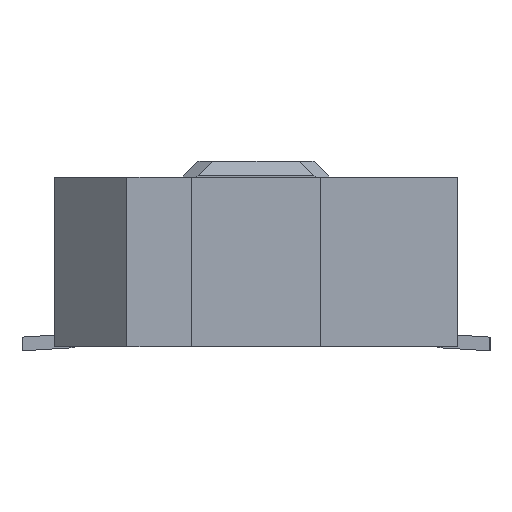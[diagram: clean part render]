
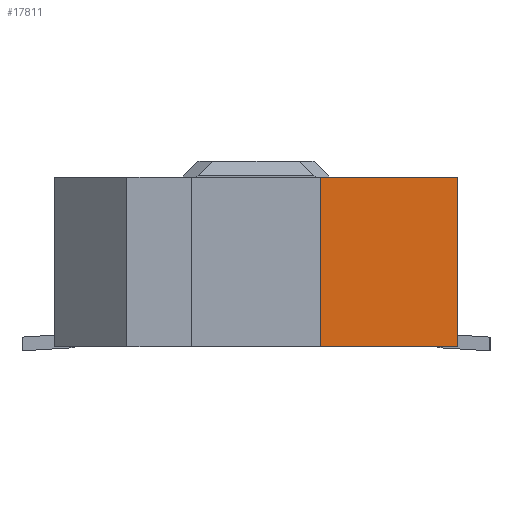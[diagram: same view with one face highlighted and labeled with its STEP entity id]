
A CAD part, left-side view. The second image highlights one B-rep face of the part: STEP entity #17811.
In plain terms, the highlighted planar face has unit normal (-1, 0, 0).
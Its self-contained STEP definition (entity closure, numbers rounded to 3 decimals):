
#169 = VECTOR ( 'NONE', #17687, 1000. ) ;
#1514 = PLANE ( 'NONE',  #10781 ) ;
#6425 = CARTESIAN_POINT ( 'NONE',  ( -11.6, -2.5, 0.05 ) ) ;
#7173 = DIRECTION ( 'NONE',  ( 0., 0., 1. ) ) ;
#7181 = ORIENTED_EDGE ( 'NONE', *, *, #63262, .T. ) ;
#7586 = VECTOR ( 'NONE', #55900, 1000. ) ;
#8056 = VERTEX_POINT ( 'NONE', #25498 ) ;
#8124 = VECTOR ( 'NONE', #21738, 1000. ) ;
#8518 = CARTESIAN_POINT ( 'NONE',  ( -11.6, -0.8, 0.05 ) ) ;
#8674 = LINE ( 'NONE', #29116, #21466 ) ;
#10139 = EDGE_CURVE ( 'NONE', #25355, #8056, #21381, .T. ) ;
#10781 = AXIS2_PLACEMENT_3D ( 'NONE', #62655, #11847, #7173 ) ;
#11191 = FACE_OUTER_BOUND ( 'NONE', #31211, .T. ) ;
#11847 = DIRECTION ( 'NONE',  ( -1., 0., 0. ) ) ;
#12669 = CARTESIAN_POINT ( 'NONE',  ( -11.6, 0., 0.05 ) ) ;
#17687 = DIRECTION ( 'NONE',  ( 0., -1., 0. ) ) ;
#17811 = ADVANCED_FACE ( 'NONE', ( #11191 ), #1514, .T. ) ;
#20957 = ORIENTED_EDGE ( 'NONE', *, *, #10139, .T. ) ;
#21381 = LINE ( 'NONE', #29900, #8124 ) ;
#21466 = VECTOR ( 'NONE', #49496, 1000. ) ;
#21738 = DIRECTION ( 'NONE',  ( 0., 1., 0. ) ) ;
#23121 = ORIENTED_EDGE ( 'NONE', *, *, #27454, .T. ) ;
#23514 = ORIENTED_EDGE ( 'NONE', *, *, #46073, .T. ) ;
#25355 = VERTEX_POINT ( 'NONE', #27067 ) ;
#25498 = CARTESIAN_POINT ( 'NONE',  ( -11.6, -0.8, 2.15 ) ) ;
#26128 = VERTEX_POINT ( 'NONE', #6425 ) ;
#27067 = CARTESIAN_POINT ( 'NONE',  ( -11.6, -2.5, 2.15 ) ) ;
#27454 = EDGE_CURVE ( 'NONE', #48339, #26128, #38143, .T. ) ;
#29116 = CARTESIAN_POINT ( 'NONE',  ( -11.6, -0.8, 2.15 ) ) ;
#29900 = CARTESIAN_POINT ( 'NONE',  ( -11.6, -2.5, 2.15 ) ) ;
#31211 = EDGE_LOOP ( 'NONE', ( #20957, #7181, #23121, #23514 ) ) ;
#35477 = LINE ( 'NONE', #60203, #7586 ) ;
#38143 = LINE ( 'NONE', #12669, #169 ) ;
#46073 = EDGE_CURVE ( 'NONE', #26128, #25355, #35477, .T. ) ;
#48339 = VERTEX_POINT ( 'NONE', #8518 ) ;
#49496 = DIRECTION ( 'NONE',  ( 0., 0., -1. ) ) ;
#55900 = DIRECTION ( 'NONE',  ( 0., 0., 1. ) ) ;
#60203 = CARTESIAN_POINT ( 'NONE',  ( -11.6, -2.5, 0.05 ) ) ;
#62655 = CARTESIAN_POINT ( 'NONE',  ( -11.6, 0., 0.05 ) ) ;
#63262 = EDGE_CURVE ( 'NONE', #8056, #48339, #8674, .T. ) ;
